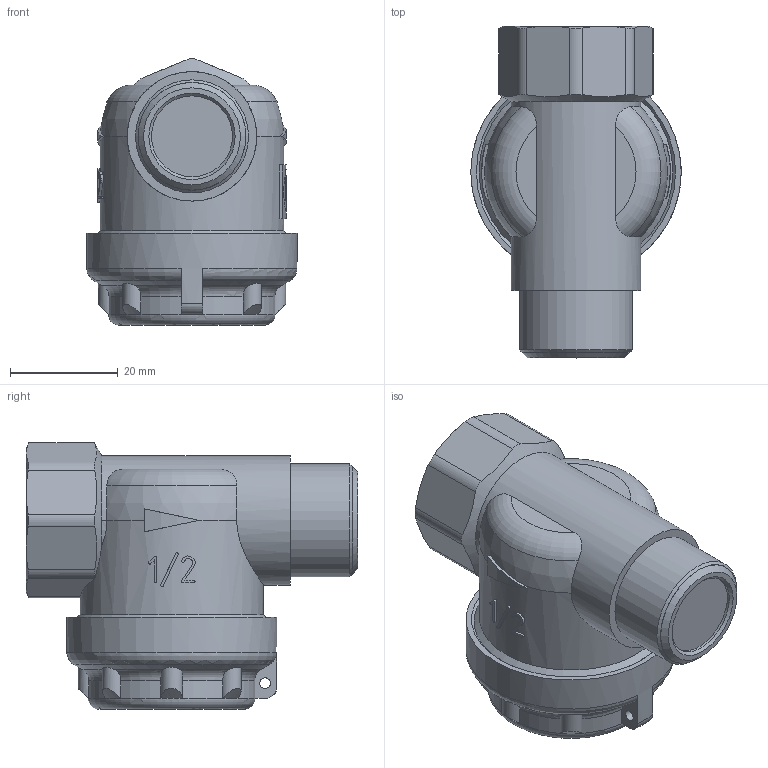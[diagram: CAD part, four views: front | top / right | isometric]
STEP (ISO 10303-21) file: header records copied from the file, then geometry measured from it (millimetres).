
FILE_DESCRIPTION(('STEP AP203'), '1');
FILE_NAME('VT.387.N.04', '2024-06-19T12:41:38', ('User'), ('Vesta'), 'C3D Converter', 'C3D Toolkit', '');
FILE_SCHEMA(('CONFIG_CONTROL_DESIGN'));
Length unit declared in the file: millimetre
Products named in the file (1): ВР.061146.009.000 СБ
Bounding box: 39 x 61.5 x 49.37 mm (x, y, z)
Volume: 52880.8 mm3; surface area: 10289.9 mm2
Topology: 1 solids, 3 shells, 187 faces, 480 edges, 309 vertices
Faces by surface type: plane 62, cylinder 45, extrusion 42, cone 23, torus 13, sphere 2
Full cylindrical faces by diameter (mm): 2 x1, 15 x1, 18.632 x1, 20 x1, 20.955 x1, 24 x1, 34 x1, 39 x1
Entity records: 9808 total; most frequent: CARTESIAN_POINT 5693, ORIENTED_EDGE 924, DIRECTION 684, EDGE_CURVE 462, VERTEX_POINT 308, AXIS2_PLACEMENT_3D 249, B_SPLINE_CURVE_WITH_KNOTS 215, EDGE_LOOP 214
